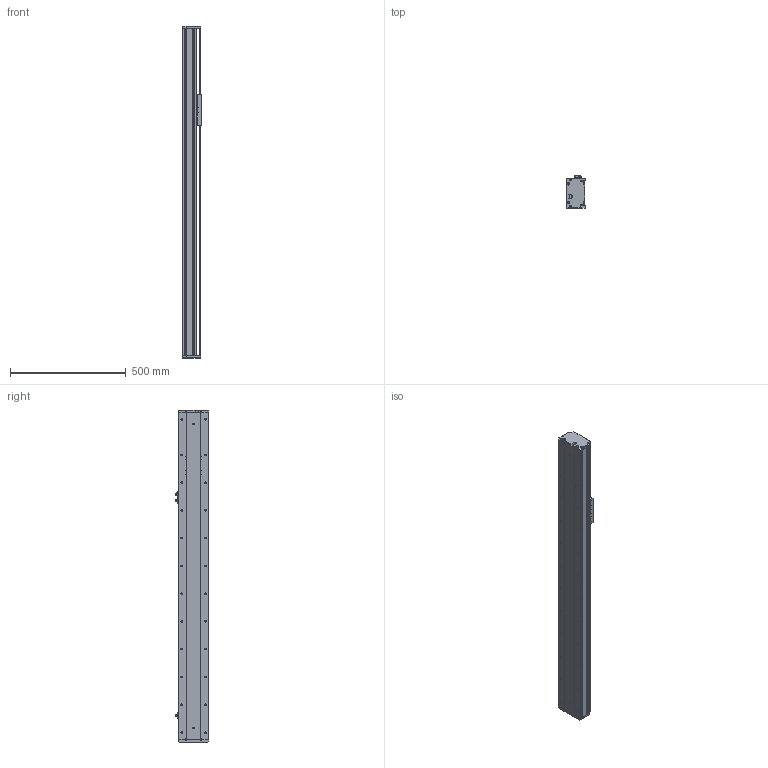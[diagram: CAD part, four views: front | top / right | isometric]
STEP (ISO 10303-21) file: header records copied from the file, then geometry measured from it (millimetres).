
FILE_DESCRIPTION (( 'STEP AP214' ), '1' );
FILE_NAME ('KSD130S-P2010-S950-M-CM.STEP', '2019-09-10T07:03:45', ( '微软用户' ), ( '微软中国' ), 'SwSTEP 2.0', 'SolidWorks 2014', '' );
FILE_SCHEMA (( 'AUTOMOTIVE_DESIGN' ));
Length unit declared in the file: millimetre
Products named in the file (8): 130宽马达安装板半封闭-内装; U倰嫖萇EEㄜSX672; 覜茼え100遵圉猾敕; 130宽盖板半封闭丝杠内装-950行程; 130宽滚珠丝杆安装板半封闭-内装-20丝杆; 130宽端盖半封闭-内装; 130宽底板半封闭丝杠内装-950行程; KSD130S-P2010-S950-M-CM
Assembly tree (9 placements, depth 2):
  KSD130S-P2010-S950-M-CM
    130宽底板半封闭丝杠内装-950行程
    130宽端盖半封闭-内装
    130宽滚珠丝杆安装板半封闭-内装-20丝杆
    130宽盖板半封闭丝杠内装-950行程
    覜茼え100遵圉猾敕
    U倰嫖萇EEㄜSX672  x3
    130宽马达安装板半封闭-内装
Bounding box: 80 x 143.7 x 1435 mm (x, y, z)
Volume: 4231922 mm3; surface area: 1299846 mm2
Topology: 9 solids, 9 shells, 1173 faces, 3444 edges, 2178 vertices
Faces by surface type: cylinder 540, plane 459, cone 174
Entity records: 38892 total; most frequent: CARTESIAN_POINT 7671, DIRECTION 5630, ORIENTED_EDGE 5536, EDGE_CURVE 2768, AXIS2_PLACEMENT_3D 2061, VERTEX_POINT 1802, VECTOR 1508, LINE 1508
